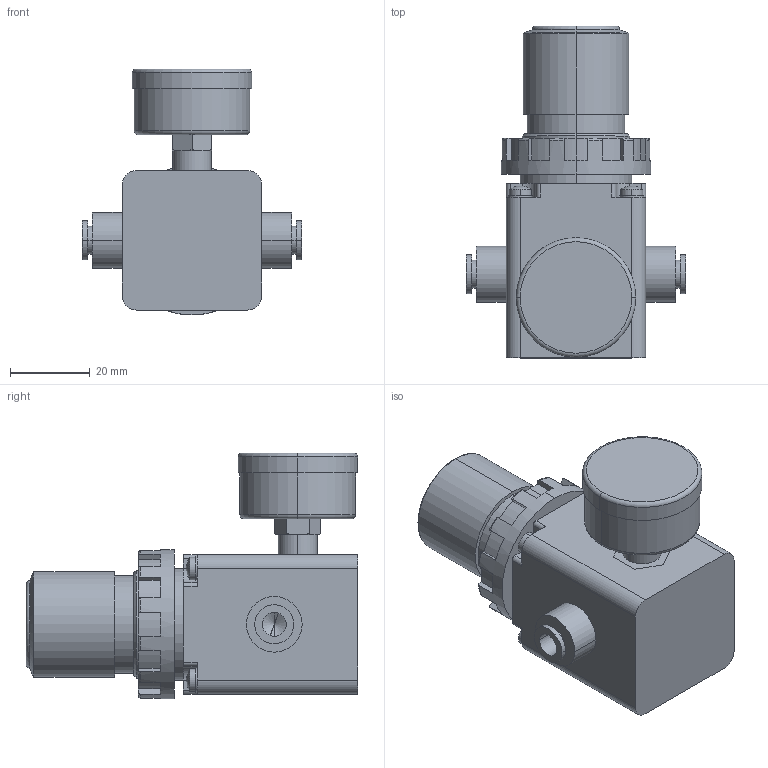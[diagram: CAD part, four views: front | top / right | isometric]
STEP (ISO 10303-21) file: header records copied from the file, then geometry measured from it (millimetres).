
FILE_DESCRIPTION (( 'STEP AP203' ), '1' );
FILE_NAME ('RV100-C06M.STEP', '2021-09-22T11:38:05', ( '' ), ( '' ), 'SwSTEP 2.0', 'SolidWorks 2019', '' );
FILE_SCHEMA (( 'CONFIG_CONTROL_DESIGN' ));
Length unit declared in the file: millimetre
Products named in the file (1): RV100-C06M
Bounding box: 55 x 83.3 x 61.75 mm (x, y, z)
Volume: 89941.6 mm3; surface area: 21803.1 mm2
Topology: 6 solids, 6 shells, 272 faces, 659 edges, 424 vertices
Faces by surface type: plane 117, cylinder 97, cone 26, torus 24, sphere 8
Entity records: 8496 total; most frequent: CARTESIAN_POINT 1844, DIRECTION 1463, ORIENTED_EDGE 1310, EDGE_CURVE 655, AXIS2_PLACEMENT_3D 571, VERTEX_POINT 424, VECTOR 321, LINE 321
